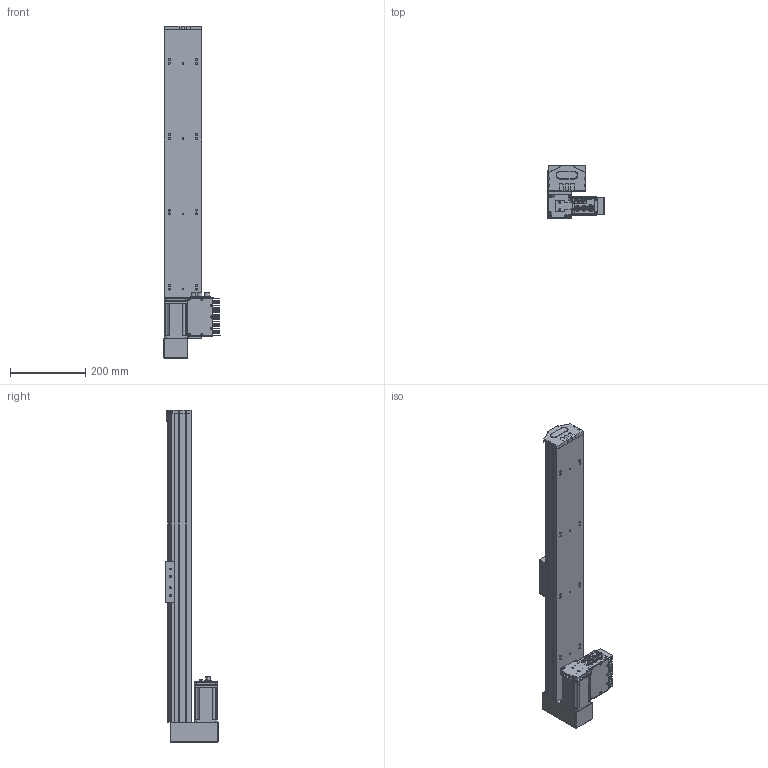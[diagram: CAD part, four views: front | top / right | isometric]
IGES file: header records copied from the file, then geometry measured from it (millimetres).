
Start section: SolidWorks IGES file using analytic representation for surfaces
Global section: file name: C:\Documents and Settings\1EDPI\Mes documents\yanize\S 10 TSH BM\S 10 TSH BM S600.IGS; native system: SolidWorks 2010; preprocessor: SolidWorks 2010; author: 1EDPI; date: 120907.134226; units: millimetre
Bounding box: 149.38 x 138.75 x 882 mm (x, y, z)
Surface area: 705713.2 mm2 (no closed solid volume)
Topology: 0 solids, 0 shells, 1980 faces, 26620 edges, 26588 vertices
Faces by surface type: revolution 1051, bspline 929
